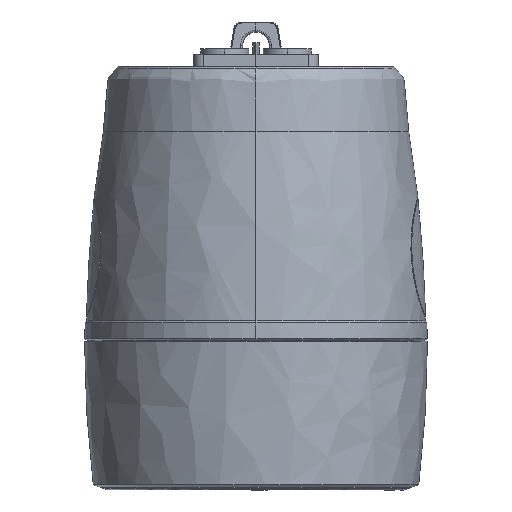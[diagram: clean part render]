
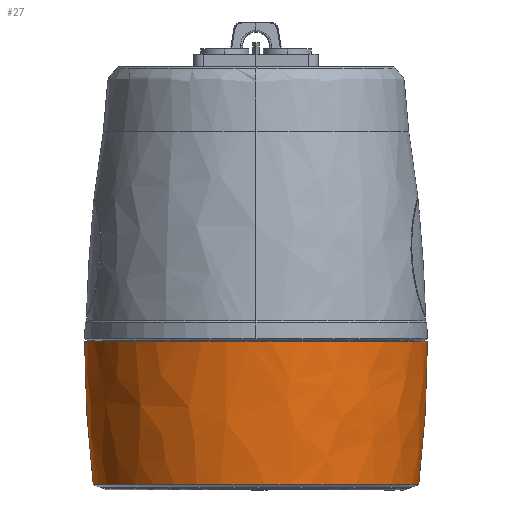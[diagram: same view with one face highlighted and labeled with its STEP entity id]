
A CAD part, left-side view. The second image highlights one B-rep face of the part: STEP entity #27.
In plain terms, the highlighted free-form (B-spline) face has degree [2, 2] with [5, 5] control points.
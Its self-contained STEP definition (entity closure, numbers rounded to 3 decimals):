
#27=ADVANCED_FACE('',(#206),#2506,.T.);
#206=FACE_OUTER_BOUND('',#376,.T.);
#376=EDGE_LOOP('',(#595,#596,#597,#598));
#595=ORIENTED_EDGE('',*,*,#1704,.T.);
#596=ORIENTED_EDGE('',*,*,#1363,.F.);
#597=ORIENTED_EDGE('',*,*,#1364,.F.);
#598=ORIENTED_EDGE('',*,*,#1365,.T.);
#1363=EDGE_CURVE('',#2146,#2349,#1925,.T.);
#1364=EDGE_CURVE('',#2147,#2146,#1926,.T.);
#1365=EDGE_CURVE('',#2147,#2350,#1927,.T.);
#1704=EDGE_CURVE('',#2350,#2349,#2105,.T.);
#1925=(
BOUNDED_CURVE()
B_SPLINE_CURVE(2,(#7496,#7497,#7498,#7499,#7500),.UNSPECIFIED.,.F.,.F.)
B_SPLINE_CURVE_WITH_KNOTS((3,2,3),(0.,131.936,263.871),
 .UNSPECIFIED.)
CURVE()
GEOMETRIC_REPRESENTATION_ITEM()
RATIONAL_B_SPLINE_CURVE((1.,0.707,1.,0.707,1.))
REPRESENTATION_ITEM('')
);
#1926=(
BOUNDED_CURVE()
B_SPLINE_CURVE(2,(#7501,#7502,#7503,#7504,#7505),.UNSPECIFIED.,.F.,.F.)
B_SPLINE_CURVE_WITH_KNOTS((3,2,3),(134.083,192.533,204.456),
 .UNSPECIFIED.)
CURVE()
GEOMETRIC_REPRESENTATION_ITEM()
RATIONAL_B_SPLINE_CURVE((1.,0.999,1.,1.,1.))
REPRESENTATION_ITEM('')
);
#1927=(
BOUNDED_CURVE()
B_SPLINE_CURVE(2,(#7506,#7507,#7508,#7509,#7510),.UNSPECIFIED.,.F.,.F.)
B_SPLINE_CURVE_WITH_KNOTS((3,2,3),(0.,131.936,263.871),
 .UNSPECIFIED.)
CURVE()
GEOMETRIC_REPRESENTATION_ITEM()
RATIONAL_B_SPLINE_CURVE((1.,0.707,1.,0.707,1.))
REPRESENTATION_ITEM('')
);
#2105=(
BOUNDED_CURVE()
B_SPLINE_CURVE(2,(#8882,#8883,#8884,#8885,#8886),.UNSPECIFIED.,.F.,.F.)
B_SPLINE_CURVE_WITH_KNOTS((3,2,3),(134.083,192.533,204.456),
 .UNSPECIFIED.)
CURVE()
GEOMETRIC_REPRESENTATION_ITEM()
RATIONAL_B_SPLINE_CURVE((1.,0.999,1.,1.,1.))
REPRESENTATION_ITEM('')
);
#2146=VERTEX_POINT('',#7137);
#2147=VERTEX_POINT('',#7138);
#2349=VERTEX_POINT('',#7340);
#2350=VERTEX_POINT('',#7341);
#2506=(
BOUNDED_SURFACE()
B_SPLINE_SURFACE(2,2,((#5115,#5116,#5117,#5118,#5119),(#5120,#5121,#5122,
#5123,#5124),(#5125,#5126,#5127,#5128,#5129),(#5130,#5131,#5132,#5133,#5134),
(#5135,#5136,#5137,#5138,#5139)),.UNSPECIFIED.,.F.,.F.,.F.)
B_SPLINE_SURFACE_WITH_KNOTS((3,2,3),(3,2,3),(0.,131.936,263.871),
(134.083,192.533,204.456),.UNSPECIFIED.)
GEOMETRIC_REPRESENTATION_ITEM()
RATIONAL_B_SPLINE_SURFACE(((1.,0.999,1.,1.,1.),
(0.707,0.706,0.707,0.707,
0.707),(1.,0.999,1.,1.,1.),(0.707,
0.706,0.707,0.707,0.707),
(1.,0.999,1.,1.,1.)))
REPRESENTATION_ITEM('')
SURFACE()
);
#5115=CARTESIAN_POINT('',(6000.,166.,-84.71));
#5116=CARTESIAN_POINT('',(6000.,166.,-113.959));
#5117=CARTESIAN_POINT('',(6000.,168.943,-143.06));
#5118=CARTESIAN_POINT('',(6000.,169.542,-148.992));
#5119=CARTESIAN_POINT('',(6000.,170.264,-154.91));
#5120=CARTESIAN_POINT('',(5916.,166.,-84.71));
#5121=CARTESIAN_POINT('',(5916.,166.,-113.959));
#5122=CARTESIAN_POINT('',(5918.943,168.943,-143.06));
#5123=CARTESIAN_POINT('',(5919.542,169.542,-148.992));
#5124=CARTESIAN_POINT('',(5920.264,170.264,-154.91));
#5125=CARTESIAN_POINT('',(5916.,250.,-84.71));
#5126=CARTESIAN_POINT('',(5916.,250.,-113.959));
#5127=CARTESIAN_POINT('',(5918.943,250.,-143.06));
#5128=CARTESIAN_POINT('',(5919.542,250.,-148.992));
#5129=CARTESIAN_POINT('',(5920.264,250.,-154.91));
#5130=CARTESIAN_POINT('',(5916.,334.,-84.71));
#5131=CARTESIAN_POINT('',(5916.,334.,-113.959));
#5132=CARTESIAN_POINT('',(5918.943,331.057,-143.06));
#5133=CARTESIAN_POINT('',(5919.542,330.458,-148.992));
#5134=CARTESIAN_POINT('',(5920.264,329.736,-154.91));
#5135=CARTESIAN_POINT('',(6000.,334.,-84.71));
#5136=CARTESIAN_POINT('',(6000.,334.,-113.959));
#5137=CARTESIAN_POINT('',(6000.,331.057,-143.06));
#5138=CARTESIAN_POINT('',(6000.,330.458,-148.992));
#5139=CARTESIAN_POINT('',(6000.,329.736,-154.91));
#7137=CARTESIAN_POINT('',(6000.,170.264,-154.91));
#7138=CARTESIAN_POINT('',(6000.,166.,-84.71));
#7340=CARTESIAN_POINT('',(6000.,329.736,-154.91));
#7341=CARTESIAN_POINT('',(6000.,334.,-84.71));
#7496=CARTESIAN_POINT('',(6000.,170.264,-154.91));
#7497=CARTESIAN_POINT('',(5920.264,170.264,-154.91));
#7498=CARTESIAN_POINT('',(5920.264,250.,-154.91));
#7499=CARTESIAN_POINT('',(5920.264,329.736,-154.91));
#7500=CARTESIAN_POINT('',(6000.,329.736,-154.91));
#7501=CARTESIAN_POINT('',(6000.,166.,-84.71));
#7502=CARTESIAN_POINT('',(6000.,166.,-113.959));
#7503=CARTESIAN_POINT('',(6000.,168.943,-143.06));
#7504=CARTESIAN_POINT('',(6000.,169.542,-148.992));
#7505=CARTESIAN_POINT('',(6000.,170.264,-154.91));
#7506=CARTESIAN_POINT('',(6000.,166.,-84.71));
#7507=CARTESIAN_POINT('',(5916.,166.,-84.71));
#7508=CARTESIAN_POINT('',(5916.,250.,-84.71));
#7509=CARTESIAN_POINT('',(5916.,334.,-84.71));
#7510=CARTESIAN_POINT('',(6000.,334.,-84.71));
#8882=CARTESIAN_POINT('',(6000.,334.,-84.71));
#8883=CARTESIAN_POINT('',(6000.,334.,-113.959));
#8884=CARTESIAN_POINT('',(6000.,331.057,-143.06));
#8885=CARTESIAN_POINT('',(6000.,330.458,-148.992));
#8886=CARTESIAN_POINT('',(6000.,329.736,-154.91));
